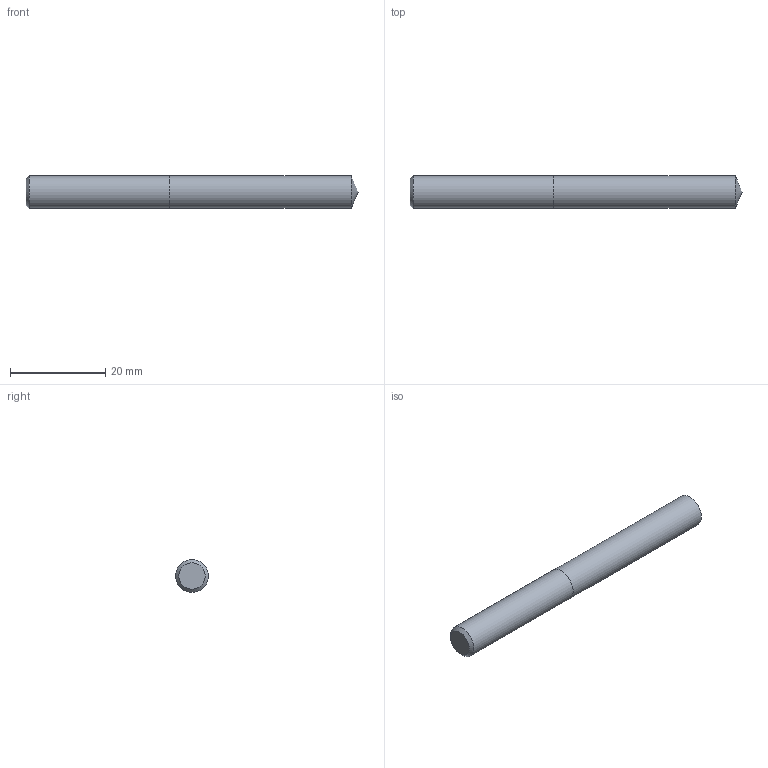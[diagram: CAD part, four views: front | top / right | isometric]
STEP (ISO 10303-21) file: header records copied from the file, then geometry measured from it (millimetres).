
FILE_DESCRIPTION (( 'STEP AP214' ), '1' );
FILE_NAME ('03-2325.STEP', '2022-06-03T06:14:22', ( 'USER' ), ( '' ), 'SwSTEP 2.0', 'SolidWorks 2018', '' );
FILE_SCHEMA (( 'AUTOMOTIVE_DESIGN' ));
Length unit declared in the file: inch
Products named in the file (1): 03-2325
Bounding box: 69.69 x 6.91 x 6.91 mm (x, y, z)
Volume: 2572.1 mm3; surface area: 1625.2 mm2
Topology: 2 solids, 2 shells, 7 faces, 11 edges, 7 vertices
Faces by surface type: plane 3, cylinder 2, cone 2
Full cylindrical faces by diameter (mm): 6.909 x2
Entity records: 214 total; most frequent: DIRECTION 26, CARTESIAN_POINT 18, AXIS2_PLACEMENT_3D 13, ORIENTED_EDGE 10, EDGE_LOOP 10, FACE_OUTER_BOUND 9, UNCERTAINTY_MEASURE_WITH_UNIT 7, DIMENSIONAL_EXPONENTS 7
